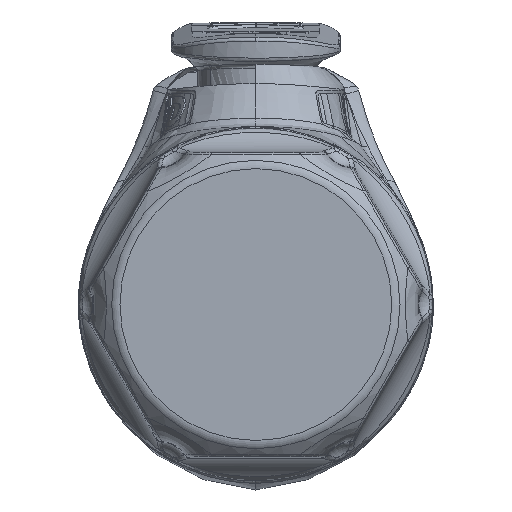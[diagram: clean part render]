
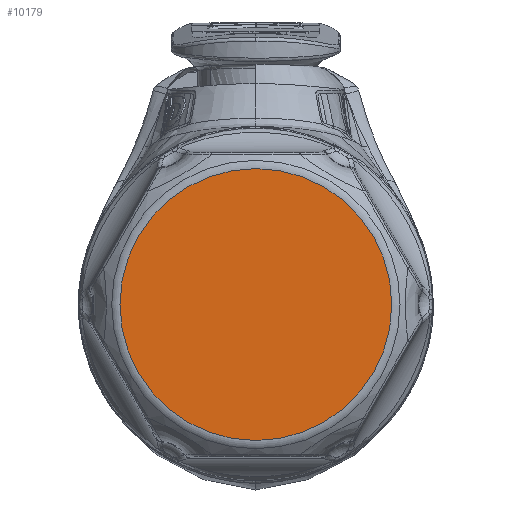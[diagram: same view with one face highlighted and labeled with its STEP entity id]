
A CAD part, front view. The second image highlights one B-rep face of the part: STEP entity #10179.
In plain terms, the highlighted planar face has unit normal (0, -1, 0).
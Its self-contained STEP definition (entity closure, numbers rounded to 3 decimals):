
#2364 = VERTEX_POINT ( 'NONE', #29075 ) ;
#5720 = CIRCLE ( 'NONE', #70101, 11.016 ) ;
#9440 = DIRECTION ( 'NONE',  ( 0., 0., -1. ) ) ;
#10179 = ADVANCED_FACE ( 'NONE', ( #76939 ), #23889, .T. ) ;
#16010 = CARTESIAN_POINT ( 'NONE',  ( 0., -58.7, 0. ) ) ;
#23889 = PLANE ( 'NONE',  #32949 ) ;
#29075 = CARTESIAN_POINT ( 'NONE',  ( 11.016, -58.7, 0. ) ) ;
#32949 = AXIS2_PLACEMENT_3D ( 'NONE', #16010, #56358, #9440 ) ;
#48740 = CARTESIAN_POINT ( 'NONE',  ( 0., -58.7, 0. ) ) ;
#54021 = ORIENTED_EDGE ( 'NONE', *, *, #76068, .T. ) ;
#56358 = DIRECTION ( 'NONE',  ( 0., -1., 0. ) ) ;
#57655 = EDGE_LOOP ( 'NONE', ( #54021 ) ) ;
#61910 = DIRECTION ( 'NONE',  ( 1., 0., 0. ) ) ;
#67604 = DIRECTION ( 'NONE',  ( 0., -1., 0. ) ) ;
#70101 = AXIS2_PLACEMENT_3D ( 'NONE', #48740, #67604, #61910 ) ;
#76068 = EDGE_CURVE ( 'NONE', #2364, #2364, #5720, .T. ) ;
#76939 = FACE_OUTER_BOUND ( 'NONE', #57655, .T. ) ;
